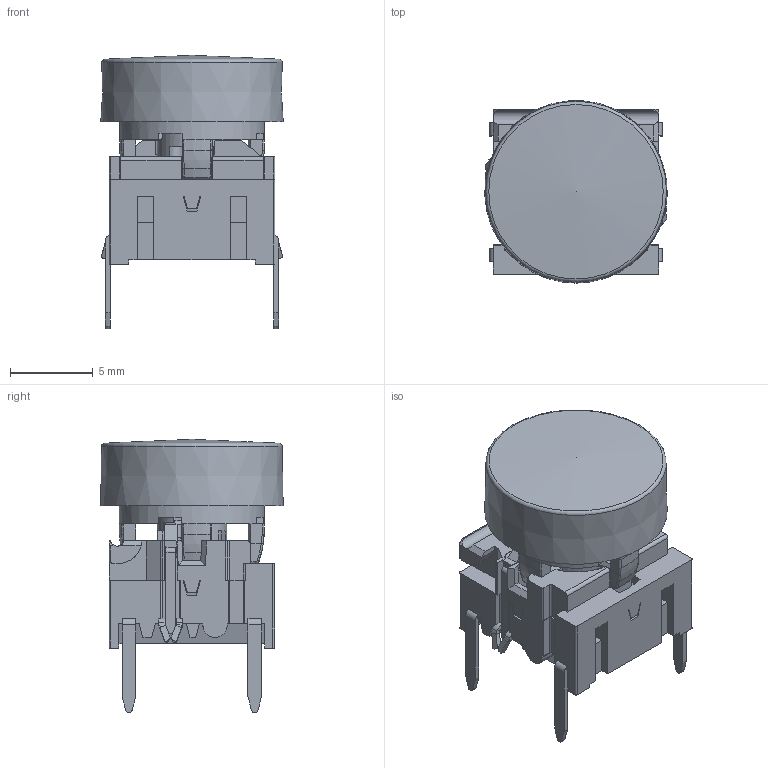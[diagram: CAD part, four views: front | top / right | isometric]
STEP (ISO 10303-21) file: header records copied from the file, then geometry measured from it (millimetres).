
FILE_DESCRIPTION(/* description */ (''),/* implementation_level */ '2;1');
FILE_NAME(/* name */ 'C:\Users\cgh.MEC\Desktop\Traceparts - 3D programserie\STEP filer\il-TH\5GTH9xxxxxxx+1GAS.stp',/* time_stamp */ '2016-02-29T06:49:58+01:00',/* author */ ('cgh'),/* organization */ (''),/* preprocessor_version */ 'ST-DEVELOPER v15.2',/* originating_system */ 'Autodesk Inventor 2014',/* authorisation */ '');
FILE_SCHEMA (('AUTOMOTIVE_DESIGN { 1 0 10303 214 3 1 1 }'));
Length unit declared in the file: centimetre
Products named in the file (1): cgh
Bounding box: 11.02 x 11.01 x 16.51 mm (x, y, z)
Volume: 712.6 mm3; surface area: 1643.3 mm2
Topology: 1 solids, 1 shells, 1319 faces, 3714 edges, 2417 vertices
Faces by surface type: plane 833, cylinder 206, bspline 164, torus 65, cone 45, sphere 6
Full cylindrical faces by diameter (mm): 0.9 x1, 1 x3, 2.8 x1, 4.73 x1, 6.5 x1, 7.2 x1, 7.44 x1, 8.76 x1
Entity records: 46907 total; most frequent: CARTESIAN_POINT 12550, ORIENTED_EDGE 7342, DIRECTION 6196, EDGE_CURVE 3663, VERTEX_POINT 2400, LINE 2368, VECTOR 2368, AXIS2_PLACEMENT_3D 1914
